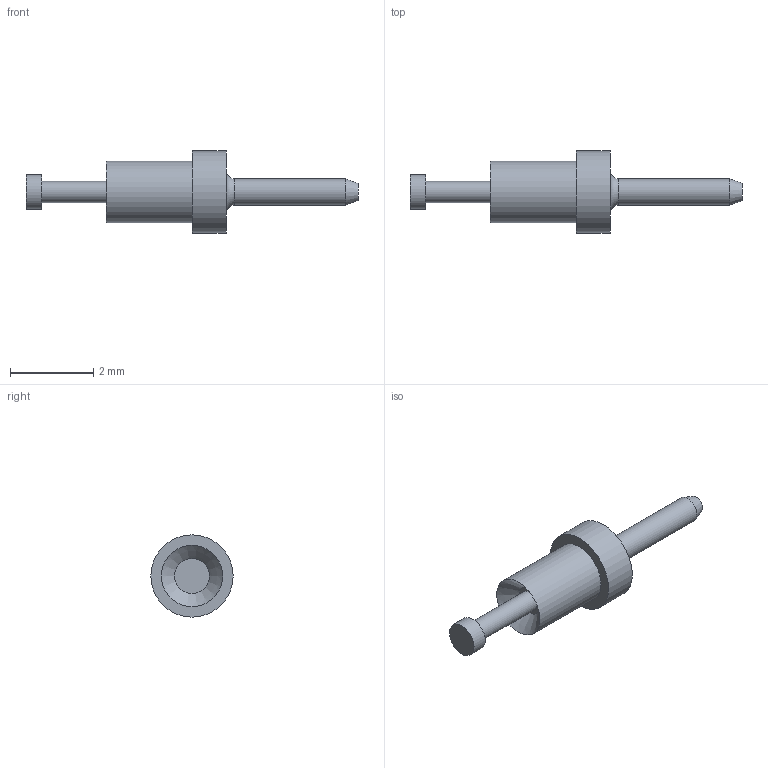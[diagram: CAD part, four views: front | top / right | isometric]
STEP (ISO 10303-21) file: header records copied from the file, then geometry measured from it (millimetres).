
FILE_DESCRIPTION(/* description */ (''),/* implementation_level */ '2;1');
FILE_NAME(/* name */ 'Z:\STEP folder\460320202.ipt.stp',/* time_stamp */ '2016-12-21T13:05:36+00:00',/* author */ ('Paul Karlsons'),/* organization */ (''),/* preprocessor_version */ 'ST-DEVELOPER v15.2',/* originating_system */ 'Autodesk Inventor 2014',/* authorisation */ '');
FILE_SCHEMA (('AUTOMOTIVE_DESIGN { 1 0 10303 214 3 1 1 }'));
Length unit declared in the file: millimetre
Products named in the file (1): 460320202
Bounding box: 8 x 1.98 x 1.98 mm (x, y, z)
Volume: 7.3 mm3; surface area: 32.1 mm2
Topology: 1 solids, 1 shells, 14 faces, 21 edges, 13 vertices
Faces by surface type: plane 6, cylinder 5, cone 2, torus 1
Full cylindrical faces by diameter (mm): 0.508 x1, 0.635 x1, 0.838 x1, 1.473 x1, 1.98 x1
Entity records: 295 total; most frequent: DIRECTION 56, CARTESIAN_POINT 41, AXIS2_PLACEMENT_3D 28, EDGE_LOOP 26, ORIENTED_EDGE 26, ADVANCED_FACE 14, FACE_BOUND 13, FACE_OUTER_BOUND 13
